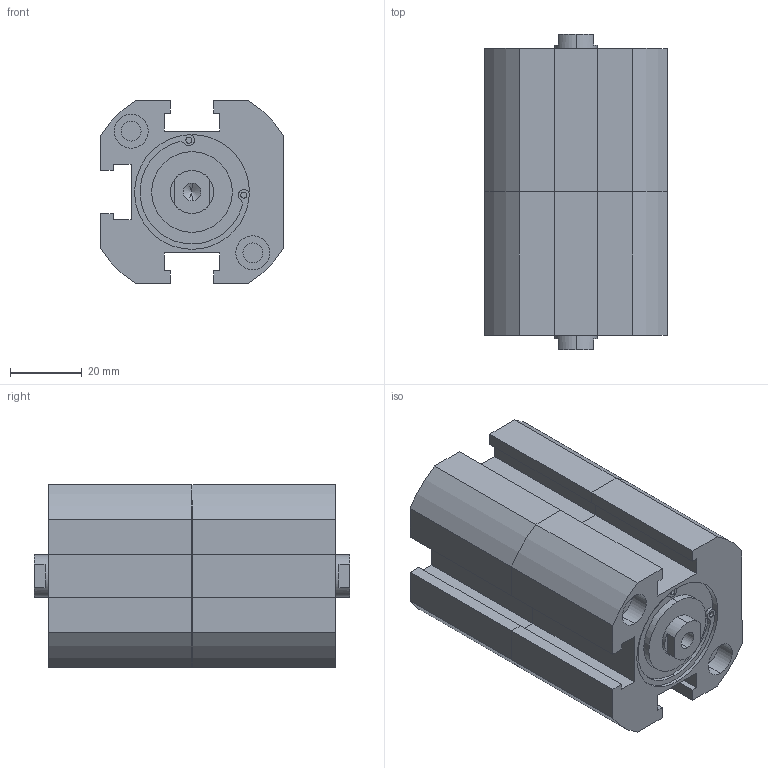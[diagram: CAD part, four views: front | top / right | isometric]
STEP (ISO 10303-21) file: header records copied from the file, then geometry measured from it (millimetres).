
FILE_DESCRIPTION (( 'STEP AP203' ), '1' );
FILE_NAME ('XGD7-32-10-10.STEP', '2016-08-05T01:43:35', ( '' ), ( '' ), 'SwSTEP 2.0', 'SolidWorks 2014', '' );
FILE_SCHEMA (( 'CONFIG_CONTROL_DESIGN' ));
Length unit declared in the file: millimetre
Products named in the file (2): XGD7-32-10-10; XG#2-32-10
Assembly tree (2 placements, depth 2):
  XGD7-32-10-10
    XG#2-32-10  x2
Bounding box: 51 x 88 x 51 mm (x, y, z)
Volume: 156785.7 mm3; surface area: 34420 mm2
Topology: 2 solids, 2 shells, 196 faces, 494 edges, 318 vertices
Faces by surface type: plane 92, cylinder 84, cone 20
Entity records: 3157 total; most frequent: DIRECTION 543, CARTESIAN_POINT 503, ORIENTED_EDGE 482, EDGE_CURVE 241, AXIS2_PLACEMENT_3D 199, VERTEX_POINT 159, LINE 145, VECTOR 145
